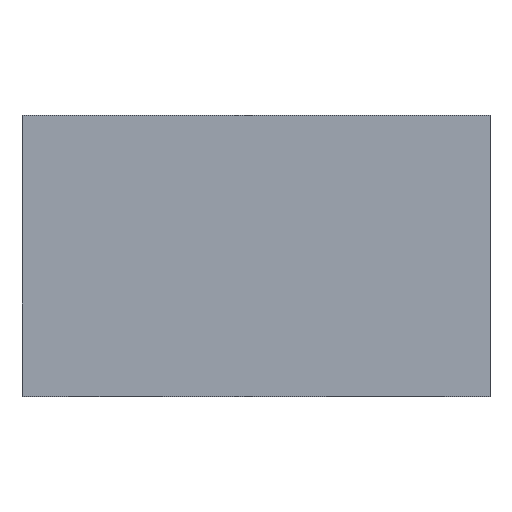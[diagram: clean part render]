
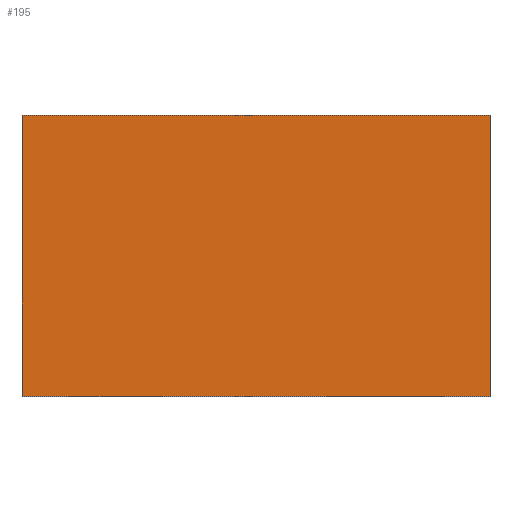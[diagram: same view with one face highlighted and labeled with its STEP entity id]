
A CAD part, top view. The second image highlights one B-rep face of the part: STEP entity #195.
In plain terms, the highlighted planar face has unit normal (0, 0, 1).
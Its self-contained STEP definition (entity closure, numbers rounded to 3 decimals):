
#195=ADVANCED_FACE('',(#315),#256,.T.);
#256=PLANE('',#1362);
#315=FACE_OUTER_BOUND('',#380,.T.);
#380=EDGE_LOOP('',(#613,#614,#615,#616));
#613=ORIENTED_EDGE('',*,*,#954,.F.);
#614=ORIENTED_EDGE('',*,*,#955,.F.);
#615=ORIENTED_EDGE('',*,*,#948,.F.);
#616=ORIENTED_EDGE('',*,*,#956,.F.);
#809=VERTEX_POINT('',#1903);
#810=VERTEX_POINT('',#1905);
#815=VERTEX_POINT('',#1917);
#816=VERTEX_POINT('',#1918);
#948=EDGE_CURVE('',#809,#810,#1110,.T.);
#954=EDGE_CURVE('',#815,#816,#1116,.T.);
#955=EDGE_CURVE('',#810,#815,#1117,.T.);
#956=EDGE_CURVE('',#816,#809,#1118,.T.);
#1110=LINE('',#1904,#1272);
#1116=LINE('',#1916,#1278);
#1117=LINE('',#1919,#1279);
#1118=LINE('',#1920,#1280);
#1272=VECTOR('',#1572,1.);
#1278=VECTOR('',#1580,1.);
#1279=VECTOR('',#1581,1.);
#1280=VECTOR('',#1582,1.);
#1362=AXIS2_PLACEMENT_3D('',#1921,#1583,#1584);
#1572=DIRECTION('',(1.,0.,0.));
#1580=DIRECTION('',(-1.,0.,0.));
#1581=DIRECTION('',(0.,-1.,0.));
#1582=DIRECTION('',(0.,1.,0.));
#1583=DIRECTION('',(0.,0.,1.));
#1584=DIRECTION('',(1.,0.,0.));
#1903=CARTESIAN_POINT('',(-3.46,1.404,-0.697));
#1904=CARTESIAN_POINT('',(-2.96,1.404,-0.697));
#1905=CARTESIAN_POINT('',(-2.46,1.404,-0.697));
#1916=CARTESIAN_POINT('',(-2.96,0.804,-0.697));
#1917=CARTESIAN_POINT('',(-2.46,0.804,-0.697));
#1918=CARTESIAN_POINT('',(-3.46,0.804,-0.697));
#1919=CARTESIAN_POINT('',(-2.46,1.104,-0.697));
#1920=CARTESIAN_POINT('',(-3.46,1.104,-0.697));
#1921=CARTESIAN_POINT('',(-2.96,1.104,-0.697));
